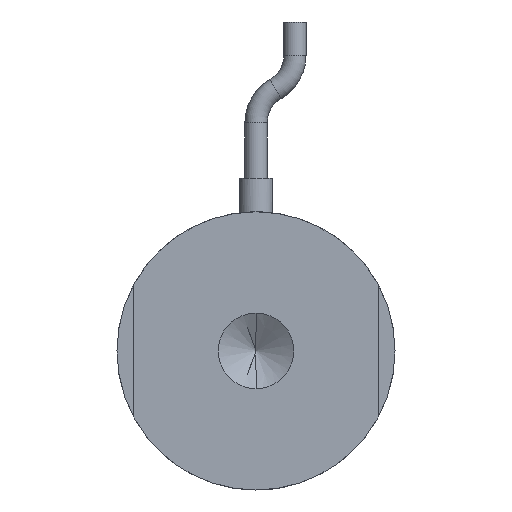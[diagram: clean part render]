
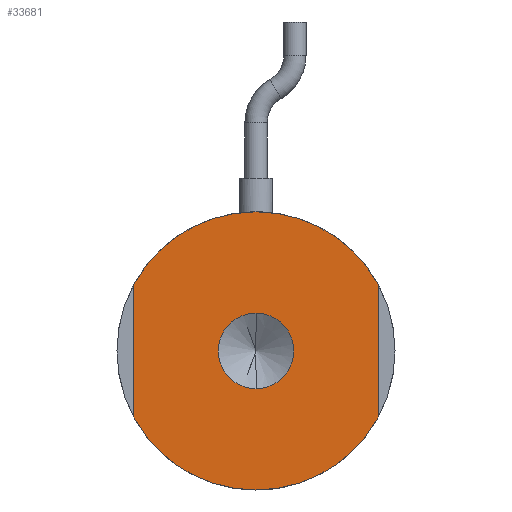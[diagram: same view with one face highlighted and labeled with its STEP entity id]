
A CAD part, front view. The second image highlights one B-rep face of the part: STEP entity #33681.
In plain terms, the highlighted planar face has unit normal (0, -1, 0).
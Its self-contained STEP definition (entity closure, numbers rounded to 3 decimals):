
#565 = DIRECTION ( 'NONE',  ( 0., 0., 1. ) ) ;
#752 = CIRCLE ( 'NONE', #16615, 12.5 ) ;
#919 = EDGE_CURVE ( 'NONE', #33789, #44963, #30772, .T. ) ;
#2630 = AXIS2_PLACEMENT_3D ( 'NONE', #15954, #40345, #19462 ) ;
#2871 = EDGE_CURVE ( 'NONE', #24870, #33789, #13762, .T. ) ;
#3542 = CARTESIAN_POINT ( 'NONE',  ( 11., 0., -5.937 ) ) ;
#3620 = CARTESIAN_POINT ( 'NONE',  ( 0., 0., 12.5 ) ) ;
#3759 = CARTESIAN_POINT ( 'NONE',  ( 11., 0., 5.937 ) ) ;
#4164 = DIRECTION ( 'NONE',  ( 0., 0., 1. ) ) ;
#4282 = DIRECTION ( 'NONE',  ( 0., 1., 0. ) ) ;
#4474 = CARTESIAN_POINT ( 'NONE',  ( 0., 0., 0. ) ) ;
#4482 = FACE_BOUND ( 'NONE', #10157, .T. ) ;
#5153 = EDGE_CURVE ( 'NONE', #44963, #33952, #27296, .T. ) ;
#5471 = CARTESIAN_POINT ( 'NONE',  ( 0., 0., 0. ) ) ;
#6138 = EDGE_LOOP ( 'NONE', ( #10949, #14736, #27095, #27683, #26618, #15190 ) ) ;
#6227 = CIRCLE ( 'NONE', #30911, 3.4 ) ;
#6573 = DIRECTION ( 'NONE',  ( 0., 0., 1. ) ) ;
#8974 = DIRECTION ( 'NONE',  ( 0., 0., -1. ) ) ;
#9586 = AXIS2_PLACEMENT_3D ( 'NONE', #33422, #12477, #36931 ) ;
#9957 = PLANE ( 'NONE',  #16731 ) ;
#10157 = EDGE_LOOP ( 'NONE', ( #39864, #13621 ) ) ;
#10774 = EDGE_CURVE ( 'NONE', #38299, #16891, #41360, .T. ) ;
#10949 = ORIENTED_EDGE ( 'NONE', *, *, #35429, .F. ) ;
#11918 = CARTESIAN_POINT ( 'NONE',  ( -11., 0., -5.937 ) ) ;
#12477 = DIRECTION ( 'NONE',  ( 0., -1., 0. ) ) ;
#13120 = CARTESIAN_POINT ( 'NONE',  ( 0., 0., -12.5 ) ) ;
#13141 = CARTESIAN_POINT ( 'NONE',  ( -11., 0., 0. ) ) ;
#13621 = ORIENTED_EDGE ( 'NONE', *, *, #10774, .F. ) ;
#13762 = LINE ( 'NONE', #20836, #32397 ) ;
#14736 = ORIENTED_EDGE ( 'NONE', *, *, #5153, .F. ) ;
#15190 = ORIENTED_EDGE ( 'NONE', *, *, #30219, .F. ) ;
#15951 = AXIS2_PLACEMENT_3D ( 'NONE', #42346, #21467, #565 ) ;
#15954 = CARTESIAN_POINT ( 'NONE',  ( 0., 0., 0. ) ) ;
#16615 = AXIS2_PLACEMENT_3D ( 'NONE', #19286, #43684, #22829 ) ;
#16731 = AXIS2_PLACEMENT_3D ( 'NONE', #24030, #27517, #6573 ) ;
#16891 = VERTEX_POINT ( 'NONE', #42796 ) ;
#17319 = DIRECTION ( 'NONE',  ( 0., 0., -1. ) ) ;
#17609 = EDGE_CURVE ( 'NONE', #16891, #38299, #6227, .T. ) ;
#19286 = CARTESIAN_POINT ( 'NONE',  ( 0., 0., 0. ) ) ;
#19332 = EDGE_CURVE ( 'NONE', #20334, #24870, #752, .T. ) ;
#19462 = DIRECTION ( 'NONE',  ( 0., 0., 1. ) ) ;
#20334 = VERTEX_POINT ( 'NONE', #3620 ) ;
#20836 = CARTESIAN_POINT ( 'NONE',  ( 11., 0., 0. ) ) ;
#21467 = DIRECTION ( 'NONE',  ( 0., 1., 0. ) ) ;
#22829 = DIRECTION ( 'NONE',  ( 0., 0., 1. ) ) ;
#24030 = CARTESIAN_POINT ( 'NONE',  ( 0., 0., 0. ) ) ;
#24663 = VERTEX_POINT ( 'NONE', #40403 ) ;
#24870 = VERTEX_POINT ( 'NONE', #3759 ) ;
#26618 = ORIENTED_EDGE ( 'NONE', *, *, #19332, .F. ) ;
#27095 = ORIENTED_EDGE ( 'NONE', *, *, #919, .F. ) ;
#27296 = CIRCLE ( 'NONE', #15951, 12.5 ) ;
#27496 = CIRCLE ( 'NONE', #2630, 12.5 ) ;
#27517 = DIRECTION ( 'NONE',  ( 0., 1., 0. ) ) ;
#27683 = ORIENTED_EDGE ( 'NONE', *, *, #2871, .F. ) ;
#29890 = DIRECTION ( 'NONE',  ( 0., -1., 0. ) ) ;
#30219 = EDGE_CURVE ( 'NONE', #24663, #20334, #27496, .T. ) ;
#30572 = DIRECTION ( 'NONE',  ( 0., 0., 1. ) ) ;
#30772 = CIRCLE ( 'NONE', #39268, 12.5 ) ;
#30911 = AXIS2_PLACEMENT_3D ( 'NONE', #5471, #29890, #8974 ) ;
#32397 = VECTOR ( 'NONE', #17319, 1000. ) ;
#33422 = CARTESIAN_POINT ( 'NONE',  ( 0., 0., 0. ) ) ;
#33681 = ADVANCED_FACE ( 'NONE', ( #4482, #40029 ), #9957, .F. ) ;
#33789 = VERTEX_POINT ( 'NONE', #3542 ) ;
#33952 = VERTEX_POINT ( 'NONE', #11918 ) ;
#35429 = EDGE_CURVE ( 'NONE', #33952, #24663, #43270, .T. ) ;
#36931 = DIRECTION ( 'NONE',  ( 0., 0., -1. ) ) ;
#38299 = VERTEX_POINT ( 'NONE', #45037 ) ;
#39268 = AXIS2_PLACEMENT_3D ( 'NONE', #4474, #4282, #4164 ) ;
#39864 = ORIENTED_EDGE ( 'NONE', *, *, #17609, .F. ) ;
#39986 = VECTOR ( 'NONE', #30572, 1000. ) ;
#40029 = FACE_OUTER_BOUND ( 'NONE', #6138, .T. ) ;
#40345 = DIRECTION ( 'NONE',  ( 0., 1., 0. ) ) ;
#40403 = CARTESIAN_POINT ( 'NONE',  ( -11., 0., 5.937 ) ) ;
#41360 = CIRCLE ( 'NONE', #9586, 3.4 ) ;
#42346 = CARTESIAN_POINT ( 'NONE',  ( 0., 0., 0. ) ) ;
#42796 = CARTESIAN_POINT ( 'NONE',  ( 0., 0., -3.4 ) ) ;
#43270 = LINE ( 'NONE', #13141, #39986 ) ;
#43684 = DIRECTION ( 'NONE',  ( 0., 1., 0. ) ) ;
#44963 = VERTEX_POINT ( 'NONE', #13120 ) ;
#45037 = CARTESIAN_POINT ( 'NONE',  ( 0., 0., 3.4 ) ) ;
